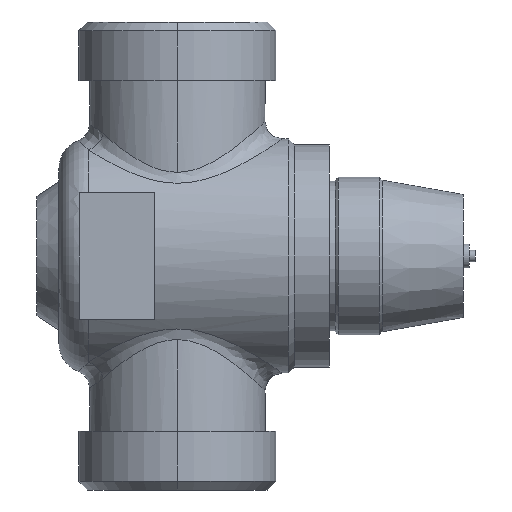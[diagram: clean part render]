
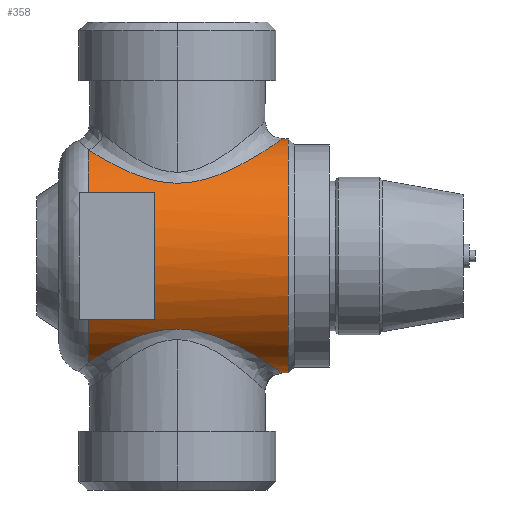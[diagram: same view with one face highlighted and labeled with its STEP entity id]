
A CAD part, left-side view. The second image highlights one B-rep face of the part: STEP entity #358.
In plain terms, the highlighted cylindrical face has radius 20 mm (diameter 40 mm), a partial arc.
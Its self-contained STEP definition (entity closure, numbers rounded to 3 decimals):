
#112=CARTESIAN_POINT('',(0.0,-19.0,20.0));
#113=VERTEX_POINT('',#112);
#122=CARTESIAN_POINT('',(0.,-19.,60.0));
#123=VERTEX_POINT('',#122);
#223=CARTESIAN_POINT('',(0.,0.614,40.0));
#224=DIRECTION('',(0.0,1.0,0.));
#225=DIRECTION('',(0.0,0.0,-1.0));
#226=AXIS2_PLACEMENT_3D('',#223,#224,#225);
#227=CYLINDRICAL_SURFACE('',#226,20.0);
#228=CARTESIAN_POINT('',(0.,-18.,20.));
#229=VERTEX_POINT('',#228);
#230=CARTESIAN_POINT('',(0.0,-19.0,20.0));
#231=DIRECTION('',(0.0,1.0,0.0));
#232=VECTOR('',#231,1.);
#233=LINE('',#230,#232);
#234=EDGE_CURVE('',#113,#229,#233,.T.);
#235=ORIENTED_EDGE('',*,*,#234,.F.);
#236=CARTESIAN_POINT('',(0.,-19.0,40.0));
#237=DIRECTION('',(0.0,1.0,0.0));
#238=DIRECTION('',(0.0,0.0,-1.0));
#239=AXIS2_PLACEMENT_3D('',#236,#237,#238);
#240=CIRCLE('',#239,20.0);
#241=EDGE_CURVE('',#113,#123,#240,.T.);
#242=ORIENTED_EDGE('',*,*,#241,.T.);
#243=CARTESIAN_POINT('',(0.,-18.,60.));
#244=VERTEX_POINT('',#243);
#245=CARTESIAN_POINT('',(0.,-18.,60.));
#246=DIRECTION('',(0.0,-1.0,0.0));
#247=VECTOR('',#246,1.0);
#248=LINE('',#245,#247);
#249=EDGE_CURVE('',#244,#123,#248,.T.);
#250=ORIENTED_EDGE('',*,*,#249,.F.);
#251=CARTESIAN_POINT('',(-15.039,-4.988,53.184));
#252=VERTEX_POINT('',#251);
#253=CARTESIAN_POINT('',(0.,-18.,60.));
#254=CARTESIAN_POINT('',(-1.671,-18.,60.));
#255=CARTESIAN_POINT('',(-3.341,-17.685,59.784));
#256=CARTESIAN_POINT('',(-7.607,-16.071,58.708));
#257=CARTESIAN_POINT('',(-9.909,-14.265,57.509));
#258=CARTESIAN_POINT('',(-13.211,-10.009,55.134));
#259=CARTESIAN_POINT('',(-14.365,-7.677,53.953));
#260=CARTESIAN_POINT('',(-15.039,-4.988,53.184));
#261=B_SPLINE_CURVE_WITH_KNOTS('',3,(#253,#254,#255,#256,#257,#258,#259,#260),.UNSPECIFIED.,.F.,.U.,(4,2,2,4),(152.29,158.048,168.14,176.882),.UNSPECIFIED.);
#262=EDGE_CURVE('',#252,#244,#261,.F.);
#263=ORIENTED_EDGE('',*,*,#262,.F.);
#264=CARTESIAN_POINT('',(-8.346,15.228,58.176));
#265=VERTEX_POINT('',#264);
#266=CARTESIAN_POINT('',(-15.039,-4.988,53.184));
#267=CARTESIAN_POINT('',(-15.369,-3.674,52.808));
#268=CARTESIAN_POINT('',(-15.575,-2.281,52.547));
#269=CARTESIAN_POINT('',(-15.634,-0.86,52.473));
#270=CARTESIAN_POINT('',(-15.714,1.06,52.373));
#271=CARTESIAN_POINT('',(-15.516,3.003,52.636));
#272=CARTESIAN_POINT('',(-15.09,4.781,53.126));
#273=CARTESIAN_POINT('',(-14.595,6.847,53.695));
#274=CARTESIAN_POINT('',(-13.81,8.71,54.526));
#275=CARTESIAN_POINT('',(-12.795,10.368,55.372));
#276=CARTESIAN_POINT('',(-11.621,12.284,56.349));
#277=CARTESIAN_POINT('',(-10.129,13.936,57.357));
#278=CARTESIAN_POINT('',(-8.346,15.228,58.176));
#279=B_SPLINE_CURVE_WITH_KNOTS('',3,(#266,#267,#268,#269,#270,#271,#272,#273,#274,#275,#276,#277,#278),.UNSPECIFIED.,.F.,.U.,(4,3,3,3,4),(57.947,62.22,67.991,74.699,82.456),.UNSPECIFIED.);
#280=EDGE_CURVE('',#265,#252,#279,.F.);
#281=ORIENTED_EDGE('',*,*,#280,.F.);
#282=CARTESIAN_POINT('',(-16.827,15.228,50.81));
#283=VERTEX_POINT('',#282);
#284=CARTESIAN_POINT('',(0.,15.228,40.0));
#285=DIRECTION('',(0.0,1.0,0.0));
#286=DIRECTION('',(0.0,0.0,1.0));
#287=AXIS2_PLACEMENT_3D('',#284,#285,#286);
#288=CIRCLE('',#287,20.0);
#289=EDGE_CURVE('',#283,#265,#288,.T.);
#290=ORIENTED_EDGE('',*,*,#289,.F.);
#291=CARTESIAN_POINT('',(-16.827,3.901,50.81));
#292=VERTEX_POINT('',#291);
#293=CARTESIAN_POINT('',(-16.827,15.228,50.81));
#294=DIRECTION('',(0.0,-1.0,0.0));
#295=VECTOR('',#294,11.327);
#296=LINE('',#293,#295);
#297=EDGE_CURVE('',#283,#292,#296,.T.);
#298=ORIENTED_EDGE('',*,*,#297,.T.);
#299=CARTESIAN_POINT('',(-16.827,3.901,29.19));
#300=VERTEX_POINT('',#299);
#301=CARTESIAN_POINT('',(0.,3.901,40.0));
#302=DIRECTION('',(0.0,-1.0,0.0));
#303=DIRECTION('',(0.0,0.0,-1.0));
#304=AXIS2_PLACEMENT_3D('',#301,#302,#303);
#305=CIRCLE('',#304,20.0);
#306=EDGE_CURVE('',#292,#300,#305,.T.);
#307=ORIENTED_EDGE('',*,*,#306,.T.);
#308=CARTESIAN_POINT('',(-16.827,15.228,29.19));
#309=VERTEX_POINT('',#308);
#310=CARTESIAN_POINT('',(-16.827,3.901,29.19));
#311=DIRECTION('',(0.0,1.0,0.0));
#312=VECTOR('',#311,11.327);
#313=LINE('',#310,#312);
#314=EDGE_CURVE('',#300,#309,#313,.T.);
#315=ORIENTED_EDGE('',*,*,#314,.T.);
#316=CARTESIAN_POINT('',(-8.346,15.228,21.824));
#317=VERTEX_POINT('',#316);
#318=CARTESIAN_POINT('',(0.,15.228,40.0));
#319=DIRECTION('',(0.0,1.0,0.0));
#320=DIRECTION('',(0.0,0.0,1.0));
#321=AXIS2_PLACEMENT_3D('',#318,#319,#320);
#322=CIRCLE('',#321,20.0);
#323=EDGE_CURVE('',#317,#309,#322,.T.);
#324=ORIENTED_EDGE('',*,*,#323,.F.);
#325=CARTESIAN_POINT('',(-15.34,-3.574,27.168));
#326=VERTEX_POINT('',#325);
#327=CARTESIAN_POINT('',(-8.346,15.228,21.824));
#328=CARTESIAN_POINT('',(-9.393,14.468,22.306));
#329=CARTESIAN_POINT('',(-10.346,13.577,22.854));
#330=CARTESIAN_POINT('',(-11.183,12.594,23.419));
#331=CARTESIAN_POINT('',(-13.062,10.388,24.686));
#332=CARTESIAN_POINT('',(-14.455,7.651,26.135));
#333=CARTESIAN_POINT('',(-15.165,4.455,26.961));
#334=CARTESIAN_POINT('',(-15.733,1.901,27.621));
#335=CARTESIAN_POINT('',(-15.799,-0.972,27.716));
#336=CARTESIAN_POINT('',(-15.34,-3.574,27.168));
#337=B_SPLINE_CURVE_WITH_KNOTS('',3,(#327,#328,#329,#330,#331,#332,#333,#334,#335,#336),.UNSPECIFIED.,.F.,.U.,(4,3,3,4),(81.787,85.458,93.696,100.282),.UNSPECIFIED.);
#338=EDGE_CURVE('',#326,#317,#337,.F.);
#339=ORIENTED_EDGE('',*,*,#338,.F.);
#340=CARTESIAN_POINT('',(-15.34,-3.574,27.168));
#341=CARTESIAN_POINT('',(-15.135,-4.739,26.922));
#342=CARTESIAN_POINT('',(-14.834,-5.853,26.575));
#343=CARTESIAN_POINT('',(-14.456,-6.901,26.179));
#344=CARTESIAN_POINT('',(-13.851,-8.578,25.546));
#345=CARTESIAN_POINT('',(-13.041,-10.108,24.787));
#346=CARTESIAN_POINT('',(-12.065,-11.467,24.049));
#347=CARTESIAN_POINT('',(-10.537,-13.593,22.893));
#348=CARTESIAN_POINT('',(-8.551,-15.362,21.751));
#349=CARTESIAN_POINT('',(-6.195,-16.53,20.984));
#350=CARTESIAN_POINT('',(-4.292,-17.473,20.364));
#351=CARTESIAN_POINT('',(-2.147,-18.,20.0));
#352=CARTESIAN_POINT('',(0.,-18.,20.));
#353=B_SPLINE_CURVE_WITH_KNOTS('',3,(#340,#341,#342,#343,#344,#345,#346,#347,#348,#349,#350,#351,#352),.UNSPECIFIED.,.F.,.U.,(4,3,3,3,4),(4.605,7.552,12.266,19.649,25.61),.UNSPECIFIED.);
#354=EDGE_CURVE('',#229,#326,#353,.F.);
#355=ORIENTED_EDGE('',*,*,#354,.F.);
#356=EDGE_LOOP('',(#235,#242,#250,#263,#281,#290,#298,#307,#315,#324,#339,#355));
#357=FACE_OUTER_BOUND('',#356,.T.);
#358=ADVANCED_FACE('',(#357),#227,.T.);
